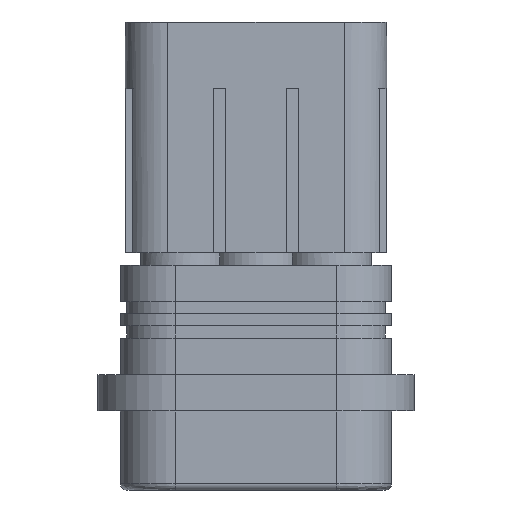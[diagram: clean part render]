
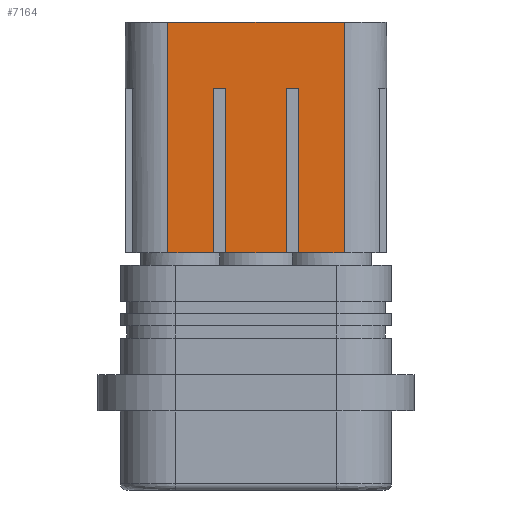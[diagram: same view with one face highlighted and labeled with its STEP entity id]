
A CAD part, front view. The second image highlights one B-rep face of the part: STEP entity #7164.
In plain terms, the highlighted planar face has unit normal (0, -1, 0).
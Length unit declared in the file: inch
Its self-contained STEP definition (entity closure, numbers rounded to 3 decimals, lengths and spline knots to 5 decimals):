
#145 = EDGE_CURVE ( 'NONE', #31852, #38650, #11737, .T. ) ;
#532 = ORIENTED_EDGE ( 'NONE', *, *, #37964, .F. ) ;
#570 = VERTEX_POINT ( 'NONE', #15492 ) ;
#1634 = CARTESIAN_POINT ( 'NONE',  ( 0.16676, 2.08957, 1.4252 ) ) ;
#1922 = DIRECTION ( 'NONE',  ( 0., -1., 0. ) ) ;
#3137 = VECTOR ( 'NONE', #4411, 39.37008 ) ;
#3151 = VERTEX_POINT ( 'NONE', #28226 ) ;
#3731 = VECTOR ( 'NONE', #9959, 39.37008 ) ;
#4138 = VERTEX_POINT ( 'NONE', #17633 ) ;
#4411 = DIRECTION ( 'NONE',  ( 0., 0., -1. ) ) ;
#4517 = CARTESIAN_POINT ( 'NONE',  ( 0.16676, 2.08957, 1.30709 ) ) ;
#4917 = ORIENTED_EDGE ( 'NONE', *, *, #37970, .F. ) ;
#5790 = LINE ( 'NONE', #6568, #37750 ) ;
#6063 = DIRECTION ( 'NONE',  ( -1., 0., 0. ) ) ;
#6568 = CARTESIAN_POINT ( 'NONE',  ( 0.26435, 2.08957, 0.77559 ) ) ;
#6706 = CARTESIAN_POINT ( 'NONE',  ( 0.26435, 2.08957, 0.77559 ) ) ;
#6801 = LINE ( 'NONE', #28824, #30219 ) ;
#7164 = ADVANCED_FACE ( 'NONE', ( #11576 ), #11385, .T. ) ;
#7578 = VECTOR ( 'NONE', #11850, 39.37008 ) ;
#7910 = ORIENTED_EDGE ( 'NONE', *, *, #37851, .F. ) ;
#8317 = VERTEX_POINT ( 'NONE', #34704 ) ;
#8663 = CARTESIAN_POINT ( 'NONE',  ( 0.16676, 2.08957, 1.30709 ) ) ;
#8772 = AXIS2_PLACEMENT_3D ( 'NONE', #1634, #1922, #37593 ) ;
#9745 = VERTEX_POINT ( 'NONE', #33347 ) ;
#9856 = VECTOR ( 'NONE', #31519, 39.37008 ) ;
#9959 = DIRECTION ( 'NONE',  ( -1., 0., 0. ) ) ;
#10061 = VECTOR ( 'NONE', #16326, 39.37008 ) ;
#10838 = LINE ( 'NONE', #15496, #9856 ) ;
#10996 = CARTESIAN_POINT ( 'NONE',  ( 0.30455, 2.08957, 0.77559 ) ) ;
#11310 = CARTESIAN_POINT ( 'NONE',  ( 0.54077, 2.08957, 1.30709 ) ) ;
#11385 = PLANE ( 'NONE',  #8772 ) ;
#11576 = FACE_OUTER_BOUND ( 'NONE', #32221, .T. ) ;
#11737 = LINE ( 'NONE', #15679, #3137 ) ;
#11799 = CARTESIAN_POINT ( 'NONE',  ( 0.5014, 2.08957, 0.77559 ) ) ;
#11843 = LINE ( 'NONE', #24946, #36278 ) ;
#11850 = DIRECTION ( 'NONE',  ( 1., 0., 0. ) ) ;
#13476 = VERTEX_POINT ( 'NONE', #10996 ) ;
#15492 = CARTESIAN_POINT ( 'NONE',  ( 0.11755, 2.08957, 1.52362 ) ) ;
#15496 = CARTESIAN_POINT ( 'NONE',  ( 0.11755, 2.08957, 1.30709 ) ) ;
#15679 = CARTESIAN_POINT ( 'NONE',  ( 0.54077, 2.08957, 1.4252 ) ) ;
#15787 = ORIENTED_EDGE ( 'NONE', *, *, #145, .T. ) ;
#15954 = ORIENTED_EDGE ( 'NONE', *, *, #29917, .T. ) ;
#16326 = DIRECTION ( 'NONE',  ( 0., 0., 1. ) ) ;
#17288 = DIRECTION ( 'NONE',  ( 0., 0., -1. ) ) ;
#17633 = CARTESIAN_POINT ( 'NONE',  ( 0.11755, 2.08957, 0.77559 ) ) ;
#18065 = ORIENTED_EDGE ( 'NONE', *, *, #40142, .T. ) ;
#18424 = VECTOR ( 'NONE', #6063, 39.37008 ) ;
#18720 = CARTESIAN_POINT ( 'NONE',  ( 0.54077, 2.08957, 0.77559 ) ) ;
#19039 = LINE ( 'NONE', #4517, #27566 ) ;
#20089 = ORIENTED_EDGE ( 'NONE', *, *, #30081, .T. ) ;
#20283 = VERTEX_POINT ( 'NONE', #23814 ) ;
#20886 = VECTOR ( 'NONE', #28890, 39.37008 ) ;
#22550 = ORIENTED_EDGE ( 'NONE', *, *, #35780, .T. ) ;
#23814 = CARTESIAN_POINT ( 'NONE',  ( 0.26518, 2.08957, 1.30709 ) ) ;
#24581 = VERTEX_POINT ( 'NONE', #24891 ) ;
#24891 = CARTESIAN_POINT ( 'NONE',  ( 0.68841, 2.08957, 0.77559 ) ) ;
#24946 = CARTESIAN_POINT ( 'NONE',  ( 0.68841, 2.08957, 1.4252 ) ) ;
#25143 = CARTESIAN_POINT ( 'NONE',  ( 0.16676, 2.08957, 1.52362 ) ) ;
#25623 = DIRECTION ( 'NONE',  ( -1., 0., 0. ) ) ;
#25928 = LINE ( 'NONE', #35474, #10061 ) ;
#27445 = LINE ( 'NONE', #39597, #35975 ) ;
#27566 = VECTOR ( 'NONE', #39556, 39.37008 ) ;
#28155 = DIRECTION ( 'NONE',  ( 0., 0., 1. ) ) ;
#28226 = CARTESIAN_POINT ( 'NONE',  ( 0.68841, 2.08957, 1.52362 ) ) ;
#28824 = CARTESIAN_POINT ( 'NONE',  ( 0.26435, 2.08957, 0.77559 ) ) ;
#28890 = DIRECTION ( 'NONE',  ( 0., 0., 1. ) ) ;
#28927 = EDGE_CURVE ( 'NONE', #20283, #38123, #19039, .T. ) ;
#29198 = LINE ( 'NONE', #6706, #3731 ) ;
#29512 = ORIENTED_EDGE ( 'NONE', *, *, #37833, .T. ) ;
#29917 = EDGE_CURVE ( 'NONE', #31024, #8317, #25928, .T. ) ;
#30081 = EDGE_CURVE ( 'NONE', #38123, #13476, #27445, .T. ) ;
#30219 = VECTOR ( 'NONE', #32064, 39.37008 ) ;
#31024 = VERTEX_POINT ( 'NONE', #11799 ) ;
#31519 = DIRECTION ( 'NONE',  ( 0., 0., 1. ) ) ;
#31852 = VERTEX_POINT ( 'NONE', #11310 ) ;
#32064 = DIRECTION ( 'NONE',  ( -1., 0., 0. ) ) ;
#32221 = EDGE_LOOP ( 'NONE', ( #29512, #33351, #7910, #35228, #22550, #37167, #20089, #532, #15954, #18065, #15787, #4917 ) ) ;
#33007 = LINE ( 'NONE', #8663, #7578 ) ;
#33347 = CARTESIAN_POINT ( 'NONE',  ( 0.26518, 2.08957, 0.77559 ) ) ;
#33351 = ORIENTED_EDGE ( 'NONE', *, *, #35640, .T. ) ;
#34704 = CARTESIAN_POINT ( 'NONE',  ( 0.5014, 2.08957, 1.30709 ) ) ;
#35228 = ORIENTED_EDGE ( 'NONE', *, *, #37957, .F. ) ;
#35378 = CARTESIAN_POINT ( 'NONE',  ( 0.26518, 2.08957, 1.4252 ) ) ;
#35450 = LINE ( 'NONE', #25143, #18424 ) ;
#35474 = CARTESIAN_POINT ( 'NONE',  ( 0.5014, 2.08957, 1.4252 ) ) ;
#35640 = EDGE_CURVE ( 'NONE', #3151, #570, #35450, .T. ) ;
#35780 = EDGE_CURVE ( 'NONE', #9745, #20283, #37915, .T. ) ;
#35975 = VECTOR ( 'NONE', #17288, 39.37008 ) ;
#36278 = VECTOR ( 'NONE', #28155, 39.37008 ) ;
#37167 = ORIENTED_EDGE ( 'NONE', *, *, #28927, .T. ) ;
#37593 = DIRECTION ( 'NONE',  ( 1., 0., 0. ) ) ;
#37750 = VECTOR ( 'NONE', #25623, 39.37008 ) ;
#37833 = EDGE_CURVE ( 'NONE', #24581, #3151, #11843, .T. ) ;
#37851 = EDGE_CURVE ( 'NONE', #4138, #570, #10838, .T. ) ;
#37915 = LINE ( 'NONE', #35378, #20886 ) ;
#37957 = EDGE_CURVE ( 'NONE', #9745, #4138, #6801, .T. ) ;
#37964 = EDGE_CURVE ( 'NONE', #31024, #13476, #5790, .T. ) ;
#37970 = EDGE_CURVE ( 'NONE', #24581, #38650, #29198, .T. ) ;
#38123 = VERTEX_POINT ( 'NONE', #40013 ) ;
#38650 = VERTEX_POINT ( 'NONE', #18720 ) ;
#39556 = DIRECTION ( 'NONE',  ( 1., 0., 0. ) ) ;
#39597 = CARTESIAN_POINT ( 'NONE',  ( 0.30455, 2.08957, 1.4252 ) ) ;
#40013 = CARTESIAN_POINT ( 'NONE',  ( 0.30455, 2.08957, 1.30709 ) ) ;
#40142 = EDGE_CURVE ( 'NONE', #8317, #31852, #33007, .T. ) ;
